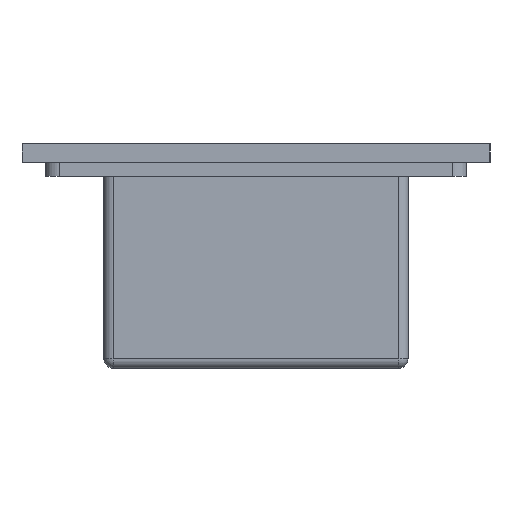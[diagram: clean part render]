
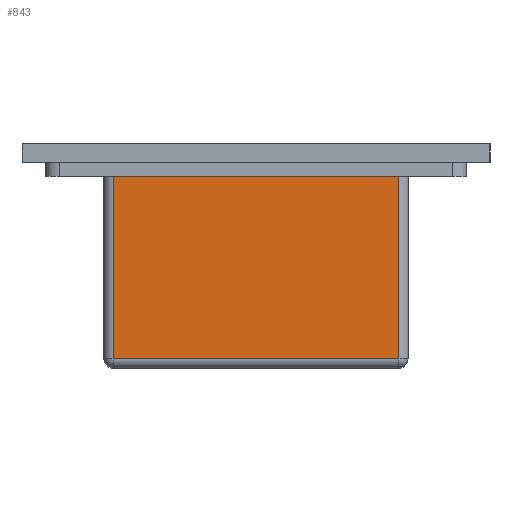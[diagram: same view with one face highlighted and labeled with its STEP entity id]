
A CAD part, left-side view. The second image highlights one B-rep face of the part: STEP entity #843.
In plain terms, the highlighted planar face has unit normal (-1, 0, 0).
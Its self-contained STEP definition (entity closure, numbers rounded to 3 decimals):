
#33=PLANE('',#927);
#45=LINE('',#1225,#125);
#52=LINE('',#1255,#132);
#60=LINE('',#1277,#140);
#96=LINE('',#1384,#176);
#125=VECTOR('',#965,39.);
#132=VECTOR('',#998,39.);
#140=VECTOR('',#1024,61.);
#176=VECTOR('',#1138,61.);
#259=FACE_OUTER_BOUND('',#311,.T.);
#311=EDGE_LOOP('',(#721,#722,#723,#724));
#371=VERTEX_POINT('',#1218);
#373=VERTEX_POINT('',#1223);
#379=VERTEX_POINT('',#1244);
#382=VERTEX_POINT('',#1251);
#449=EDGE_CURVE('',#373,#371,#45,.T.);
#464=EDGE_CURVE('',#379,#382,#52,.T.);
#476=EDGE_CURVE('',#371,#379,#60,.T.);
#528=EDGE_CURVE('',#382,#373,#96,.T.);
#721=ORIENTED_EDGE('',*,*,#449,.F.);
#722=ORIENTED_EDGE('',*,*,#528,.F.);
#723=ORIENTED_EDGE('',*,*,#464,.F.);
#724=ORIENTED_EDGE('',*,*,#476,.F.);
#843=ADVANCED_FACE('',(#259),#33,.T.);
#927=AXIS2_PLACEMENT_3D('',#1383,#1136,#1137);
#965=DIRECTION('',(0.,0.,-1.));
#998=DIRECTION('',(0.,0.,1.));
#1024=DIRECTION('',(0.,1.,0.));
#1136=DIRECTION('center_axis',(-1.,0.,0.));
#1137=DIRECTION('ref_axis',(0.,1.,0.));
#1138=DIRECTION('',(0.,-1.,0.));
#1218=CARTESIAN_POINT('',(-171.75,-30.5,-44.));
#1223=CARTESIAN_POINT('',(-171.75,-30.5,-5.));
#1225=CARTESIAN_POINT('',(-171.75,-30.5,-5.));
#1244=CARTESIAN_POINT('',(-171.75,30.5,-44.));
#1251=CARTESIAN_POINT('',(-171.75,30.5,-5.));
#1255=CARTESIAN_POINT('',(-171.75,30.5,-5.));
#1277=CARTESIAN_POINT('',(-171.75,-16.25,-44.));
#1383=CARTESIAN_POINT('Origin',(-171.75,-32.5,-5.));
#1384=CARTESIAN_POINT('',(-171.75,-16.25,-5.));
